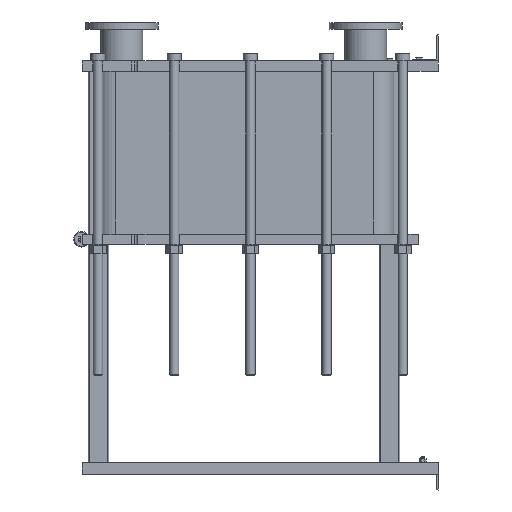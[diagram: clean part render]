
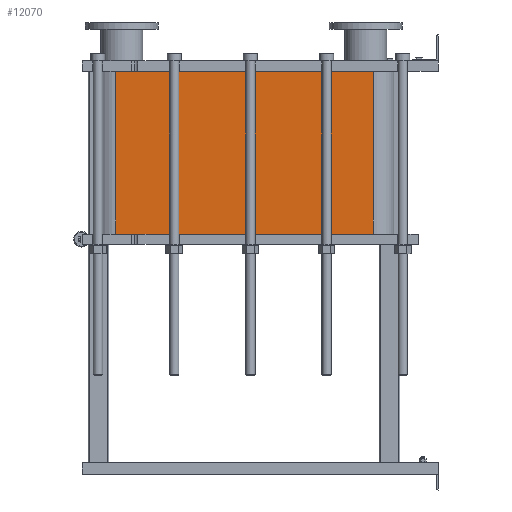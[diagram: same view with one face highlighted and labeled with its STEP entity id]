
A CAD part, left-side view. The second image highlights one B-rep face of the part: STEP entity #12070.
In plain terms, the highlighted planar face has unit normal (-1, 0, 0).
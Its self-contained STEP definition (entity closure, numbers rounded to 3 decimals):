
#1064=LINE('',#21140,#2164);
#1065=LINE('',#21144,#2165);
#1066=LINE('',#21146,#2166);
#1067=LINE('',#21147,#2167);
#2164=VECTOR('',#15790,10.);
#2165=VECTOR('',#15795,10.);
#2166=VECTOR('',#15796,10.);
#2167=VECTOR('',#15797,10.);
#3304=FACE_OUTER_BOUND('',#4091,.T.);
#4091=EDGE_LOOP('',(#9793,#9794,#9795,#9796));
#5677=VERTEX_POINT('',#21137);
#5678=VERTEX_POINT('',#21139);
#5679=VERTEX_POINT('',#21143);
#5680=VERTEX_POINT('',#21145);
#7118=EDGE_CURVE('',#5678,#5677,#1064,.T.);
#7120=EDGE_CURVE('',#5677,#5679,#1065,.T.);
#7121=EDGE_CURVE('',#5680,#5679,#1066,.T.);
#7122=EDGE_CURVE('',#5680,#5678,#1067,.T.);
#9793=ORIENTED_EDGE('',*,*,#7120,.T.);
#9794=ORIENTED_EDGE('',*,*,#7121,.F.);
#9795=ORIENTED_EDGE('',*,*,#7122,.T.);
#9796=ORIENTED_EDGE('',*,*,#7118,.T.);
#11441=PLANE('',#13191);
#12070=ADVANCED_FACE('',(#3304),#11441,.T.);
#13191=AXIS2_PLACEMENT_3D('',#21142,#15793,#15794);
#15790=DIRECTION('',(0.,0.,-1.));
#15793=DIRECTION('center_axis',(-1.,0.,0.));
#15794=DIRECTION('ref_axis',(0.,1.,0.));
#15795=DIRECTION('',(0.,-1.,0.));
#15796=DIRECTION('',(0.,0.,-1.));
#15797=DIRECTION('',(0.,1.,0.));
#21137=CARTESIAN_POINT('',(-248.152,1243.818,-627.9));
#21139=CARTESIAN_POINT('',(-248.152,1243.818,0.));
#21140=CARTESIAN_POINT('',(-248.152,1243.818,0.));
#21142=CARTESIAN_POINT('Origin',(-248.152,251.818,0.));
#21143=CARTESIAN_POINT('',(-248.152,251.818,-627.9));
#21144=CARTESIAN_POINT('',(-248.152,499.818,-627.9));
#21145=CARTESIAN_POINT('',(-248.152,251.818,0.));
#21146=CARTESIAN_POINT('',(-248.152,251.818,0.));
#21147=CARTESIAN_POINT('',(-248.152,251.818,0.));
